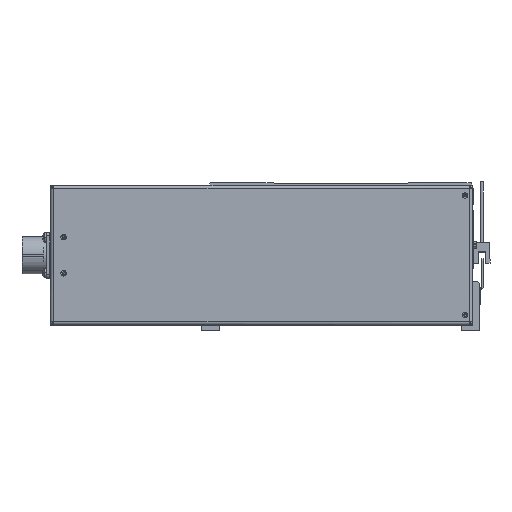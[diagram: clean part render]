
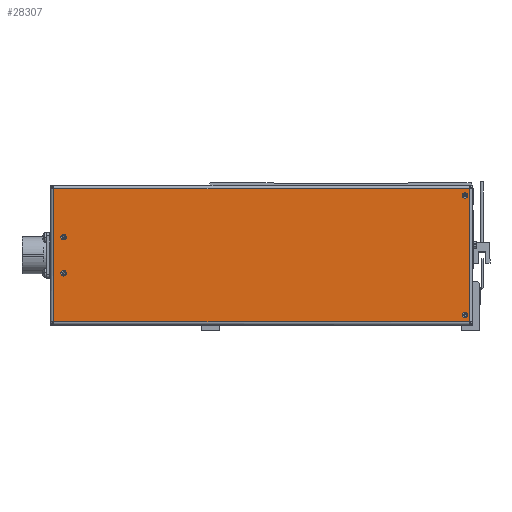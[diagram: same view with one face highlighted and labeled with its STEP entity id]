
A CAD part, front view. The second image highlights one B-rep face of the part: STEP entity #28307.
In plain terms, the highlighted planar face has unit normal (0, -1, 0) as drawn and (0, 0, 1) by its records, which use the part's own axes.
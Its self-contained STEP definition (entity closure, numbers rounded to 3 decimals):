
#341 = EDGE_CURVE ( 'NONE', #37336, #53196, #64387, .T. ) ;
#1738 = VERTEX_POINT ( 'NONE', #53398 ) ;
#2041 = AXIS2_PLACEMENT_3D ( 'NONE', #41591, #63147, #69960 ) ;
#3186 = ORIENTED_EDGE ( 'NONE', *, *, #59143, .F. ) ;
#3956 = DIRECTION ( 'NONE',  ( -1., 0., 0. ) ) ;
#8245 = EDGE_CURVE ( 'NONE', #93738, #54060, #64522, .T. ) ;
#10494 = ORIENTED_EDGE ( 'NONE', *, *, #41275, .T. ) ;
#11029 = ORIENTED_EDGE ( 'NONE', *, *, #26929, .T. ) ;
#13165 = EDGE_CURVE ( 'NONE', #53454, #79259, #53941, .T. ) ;
#13270 = AXIS2_PLACEMENT_3D ( 'NONE', #59891, #81416, #44445 ) ;
#13323 = VECTOR ( 'NONE', #51042, 1000. ) ;
#14736 = DIRECTION ( 'NONE',  ( -1., 0., 0. ) ) ;
#14782 = AXIS2_PLACEMENT_3D ( 'NONE', #38079, #59667, #15299 ) ;
#15299 = DIRECTION ( 'NONE',  ( -1., 0., 0. ) ) ;
#17112 = FACE_BOUND ( 'NONE', #85515, .T. ) ;
#17260 = LINE ( 'NONE', #22440, #66768 ) ;
#18741 = CARTESIAN_POINT ( 'NONE',  ( 172.26, -55.26, 72. ) ) ;
#18827 = DIRECTION ( 'NONE',  ( 0., 0., 1. ) ) ;
#19374 = CIRCLE ( 'NONE', #26694, 2.25 ) ;
#20153 = DIRECTION ( 'NONE',  ( 0., 0., 1. ) ) ;
#20861 = ORIENTED_EDGE ( 'NONE', *, *, #87239, .F. ) ;
#22440 = CARTESIAN_POINT ( 'NONE',  ( 172.293, 55.26, 72. ) ) ;
#24981 = DIRECTION ( 'NONE',  ( 0., 0., 1. ) ) ;
#25574 = DIRECTION ( 'NONE',  ( -1., 0., 0. ) ) ;
#26566 = ORIENTED_EDGE ( 'NONE', *, *, #60356, .F. ) ;
#26694 = AXIS2_PLACEMENT_3D ( 'NONE', #47427, #18827, #25574 ) ;
#26929 = EDGE_CURVE ( 'NONE', #94541, #93738, #17260, .T. ) ;
#28307 = ADVANCED_FACE ( 'NONE', ( #73535, #39053, #33244, #17112, #53912 ), #86440, .T. ) ;
#29448 = CIRCLE ( 'NONE', #70896, 2.25 ) ;
#30957 = CARTESIAN_POINT ( 'NONE',  ( 161.75, 15., 72. ) ) ;
#32894 = CARTESIAN_POINT ( 'NONE',  ( -170.75, 49.5, 72. ) ) ;
#33244 = FACE_BOUND ( 'NONE', #88153, .T. ) ;
#33926 = CIRCLE ( 'NONE', #2041, 2.25 ) ;
#33999 = AXIS2_PLACEMENT_3D ( 'NONE', #91597, #24981, #75503 ) ;
#34833 = VERTEX_POINT ( 'NONE', #92202 ) ;
#36227 = CARTESIAN_POINT ( 'NONE',  ( -172.293, -55.26, 72. ) ) ;
#37336 = VERTEX_POINT ( 'NONE', #82221 ) ;
#38079 = CARTESIAN_POINT ( 'NONE',  ( 164., 15., 72. ) ) ;
#38373 = DIRECTION ( 'NONE',  ( 0., -1., 0. ) ) ;
#39053 = FACE_BOUND ( 'NONE', #74814, .T. ) ;
#39478 = EDGE_CURVE ( 'NONE', #34833, #95060, #33926, .T. ) ;
#41275 = EDGE_CURVE ( 'NONE', #84179, #94541, #86587, .T. ) ;
#41591 = CARTESIAN_POINT ( 'NONE',  ( -168.5, -49.5, 72. ) ) ;
#42703 = EDGE_CURVE ( 'NONE', #54060, #84179, #52417, .T. ) ;
#44101 = DIRECTION ( 'NONE',  ( -1., 0., 0. ) ) ;
#44445 = DIRECTION ( 'NONE',  ( -1., 0., 0. ) ) ;
#47314 = EDGE_CURVE ( 'NONE', #1738, #76722, #19374, .T. ) ;
#47427 = CARTESIAN_POINT ( 'NONE',  ( 164., 15., 72. ) ) ;
#48255 = EDGE_LOOP ( 'NONE', ( #3186, #50951 ) ) ;
#49864 = CARTESIAN_POINT ( 'NONE',  ( 172.26, 55.26, 72. ) ) ;
#50437 = CIRCLE ( 'NONE', #13270, 2.25 ) ;
#50951 = ORIENTED_EDGE ( 'NONE', *, *, #13165, .F. ) ;
#51042 = DIRECTION ( 'NONE',  ( 1., 0., 0. ) ) ;
#51514 = DIRECTION ( 'NONE',  ( 0., 0., 1. ) ) ;
#51790 = CIRCLE ( 'NONE', #94823, 2.25 ) ;
#51904 = ORIENTED_EDGE ( 'NONE', *, *, #341, .F. ) ;
#52061 = VECTOR ( 'NONE', #61625, 1000. ) ;
#52417 = LINE ( 'NONE', #36227, #13323 ) ;
#53196 = VERTEX_POINT ( 'NONE', #32894 ) ;
#53398 = CARTESIAN_POINT ( 'NONE',  ( 166.25, 15., 72. ) ) ;
#53454 = VERTEX_POINT ( 'NONE', #57305 ) ;
#53876 = CARTESIAN_POINT ( 'NONE',  ( 172.26, -55.293, 72. ) ) ;
#53912 = FACE_OUTER_BOUND ( 'NONE', #87048, .T. ) ;
#53941 = CIRCLE ( 'NONE', #33999, 2.25 ) ;
#54060 = VERTEX_POINT ( 'NONE', #80990 ) ;
#54834 = ORIENTED_EDGE ( 'NONE', *, *, #47314, .F. ) ;
#57305 = CARTESIAN_POINT ( 'NONE',  ( 166.25, -15., 72. ) ) ;
#58474 = CARTESIAN_POINT ( 'NONE',  ( -170.75, -49.5, 72. ) ) ;
#59143 = EDGE_CURVE ( 'NONE', #79259, #53454, #51790, .T. ) ;
#59667 = DIRECTION ( 'NONE',  ( 0., 0., 1. ) ) ;
#59891 = CARTESIAN_POINT ( 'NONE',  ( -168.5, 49.5, 72. ) ) ;
#60356 = EDGE_CURVE ( 'NONE', #76722, #1738, #90861, .T. ) ;
#60395 = AXIS2_PLACEMENT_3D ( 'NONE', #80774, #51514, #44101 ) ;
#61625 = DIRECTION ( 'NONE',  ( 0., 1., 0. ) ) ;
#63147 = DIRECTION ( 'NONE',  ( 0., 0., 1. ) ) ;
#64233 = CARTESIAN_POINT ( 'NONE',  ( 0., 0., 72. ) ) ;
#64387 = CIRCLE ( 'NONE', #60395, 2.25 ) ;
#64522 = LINE ( 'NONE', #83397, #80683 ) ;
#66768 = VECTOR ( 'NONE', #88069, 1000. ) ;
#66807 = CARTESIAN_POINT ( 'NONE',  ( -168.5, -49.5, 72. ) ) ;
#67227 = EDGE_CURVE ( 'NONE', #53196, #37336, #50437, .T. ) ;
#69960 = DIRECTION ( 'NONE',  ( -1., 0., 0. ) ) ;
#70896 = AXIS2_PLACEMENT_3D ( 'NONE', #66807, #73891, #14736 ) ;
#72942 = CARTESIAN_POINT ( 'NONE',  ( -172.26, 55.26, 72. ) ) ;
#73535 = FACE_BOUND ( 'NONE', #48255, .T. ) ;
#73891 = DIRECTION ( 'NONE',  ( 0., 0., 1. ) ) ;
#74814 = EDGE_LOOP ( 'NONE', ( #26566, #54834 ) ) ;
#75503 = DIRECTION ( 'NONE',  ( -1., 0., 0. ) ) ;
#76360 = ORIENTED_EDGE ( 'NONE', *, *, #39478, .F. ) ;
#76722 = VERTEX_POINT ( 'NONE', #30957 ) ;
#79259 = VERTEX_POINT ( 'NONE', #80172 ) ;
#80172 = CARTESIAN_POINT ( 'NONE',  ( 161.75, -15., 72. ) ) ;
#80240 = AXIS2_PLACEMENT_3D ( 'NONE', #64233, #20153, #85501 ) ;
#80683 = VECTOR ( 'NONE', #38373, 1000. ) ;
#80774 = CARTESIAN_POINT ( 'NONE',  ( -168.5, 49.5, 72. ) ) ;
#80990 = CARTESIAN_POINT ( 'NONE',  ( -172.26, -55.26, 72. ) ) ;
#81416 = DIRECTION ( 'NONE',  ( 0., 0., 1. ) ) ;
#82216 = ORIENTED_EDGE ( 'NONE', *, *, #67227, .F. ) ;
#82221 = CARTESIAN_POINT ( 'NONE',  ( -166.25, 49.5, 72. ) ) ;
#83397 = CARTESIAN_POINT ( 'NONE',  ( -172.26, 55.293, 72. ) ) ;
#84179 = VERTEX_POINT ( 'NONE', #18741 ) ;
#85034 = DIRECTION ( 'NONE',  ( 0., 0., 1. ) ) ;
#85501 = DIRECTION ( 'NONE',  ( -1., 0., 0. ) ) ;
#85515 = EDGE_LOOP ( 'NONE', ( #82216, #51904 ) ) ;
#86440 = PLANE ( 'NONE',  #80240 ) ;
#86587 = LINE ( 'NONE', #53876, #52061 ) ;
#87048 = EDGE_LOOP ( 'NONE', ( #94130, #10494, #11029, #90027 ) ) ;
#87239 = EDGE_CURVE ( 'NONE', #95060, #34833, #29448, .T. ) ;
#88069 = DIRECTION ( 'NONE',  ( -1., 0., 0. ) ) ;
#88153 = EDGE_LOOP ( 'NONE', ( #20861, #76360 ) ) ;
#90027 = ORIENTED_EDGE ( 'NONE', *, *, #8245, .T. ) ;
#90861 = CIRCLE ( 'NONE', #14782, 2.25 ) ;
#91597 = CARTESIAN_POINT ( 'NONE',  ( 164., -15., 72. ) ) ;
#91792 = CARTESIAN_POINT ( 'NONE',  ( 164., -15., 72. ) ) ;
#92202 = CARTESIAN_POINT ( 'NONE',  ( -166.25, -49.5, 72. ) ) ;
#93738 = VERTEX_POINT ( 'NONE', #72942 ) ;
#94130 = ORIENTED_EDGE ( 'NONE', *, *, #42703, .T. ) ;
#94541 = VERTEX_POINT ( 'NONE', #49864 ) ;
#94823 = AXIS2_PLACEMENT_3D ( 'NONE', #91792, #85034, #3956 ) ;
#95060 = VERTEX_POINT ( 'NONE', #58474 ) ;
